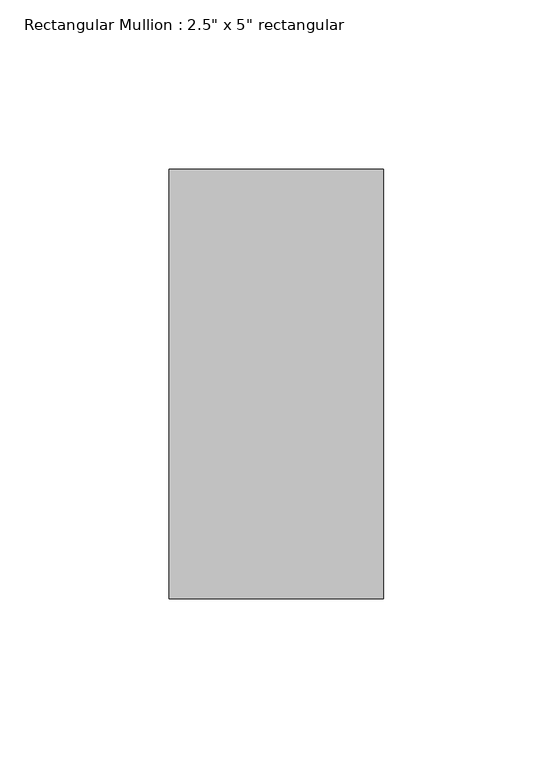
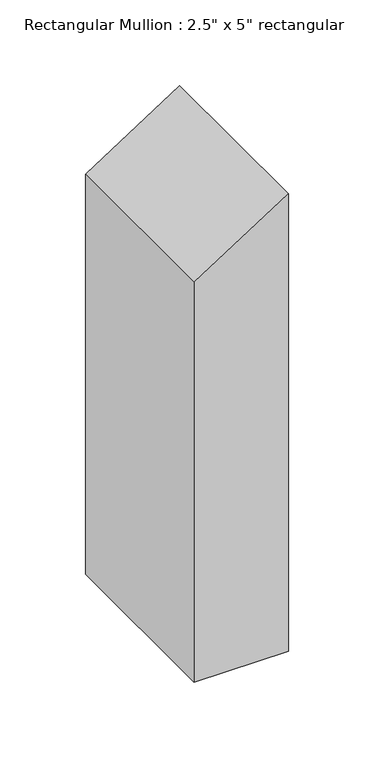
"""IFC4 building model written with IfcOpenShell, lengths in millimetres: member geometry."""

from ifc_helpers import new_model, si_unit, frame, origin, place, context, project, spatial, polyline, outline, extrude, source, transform, mapped, element, save


def member_95b791d6(model_context):
    return source(origin(), model_context, "Body", "SweptSolid", [
        extrude(outline(polyline([(0.0, 0.0), (-41.0424238, -63.5), (-326.0017124, -63.5), (-326.0017124, 0.0), (0.0, 0.0)])), frame((0.0, -63.5, 0.0), z_axis=(0.0, 1.0, 0.0), x_axis=(0.0, 0.0, 1.0)), (0.0, 0.0, 1.0), 127.0),
    ])


if __name__ == "__main__":
    model = new_model("IFC4")
    model_context = context("Model", 3, world=origin())
    ifc_project = project(units=[si_unit("LENGTHUNIT", "METRE", prefix="MILLI")], contexts=[model_context])
    site = spatial("IfcSite", under=ifc_project)
    building = spatial("IfcBuilding", under=site)
    placement = place(None, origin())
    member_shape = member_95b791d6(model_context)
    element("IfcMember", 1, ObjectType="Rectangular Mullion : 2.5\" x 5\" rectangular", at=placement, inside=building, context=model_context, shape_type="MappedRepresentation", body=[
        mapped(member_shape, transform((0.0, 0.0, 0.0), x_axis=(1.0, 0.0, 0.0), y_axis=(0.0, 1.0, 0.0), z_axis=(0.0, 0.0, 1.0))),
    ])
    save(model, "model.ifc")
